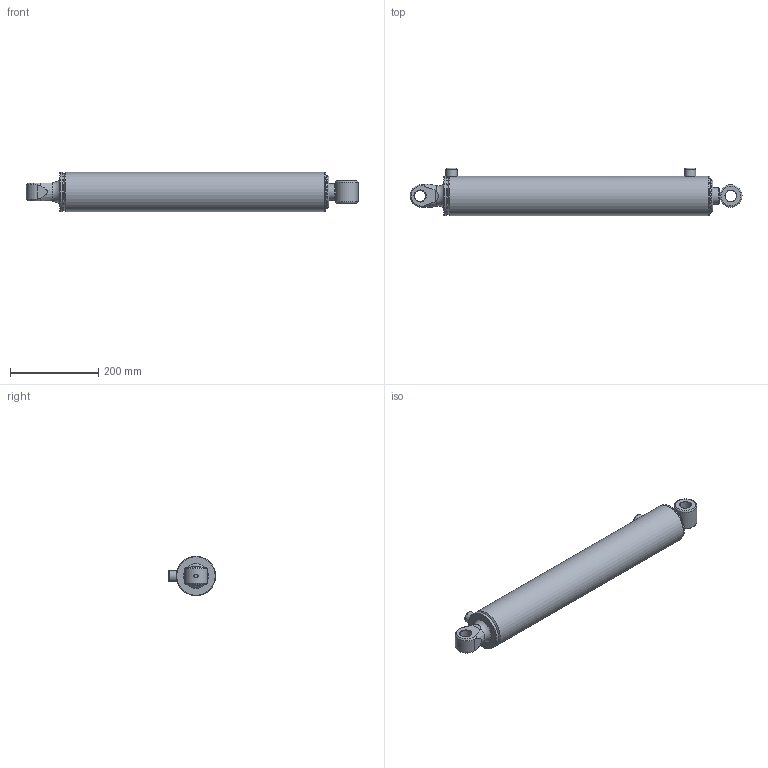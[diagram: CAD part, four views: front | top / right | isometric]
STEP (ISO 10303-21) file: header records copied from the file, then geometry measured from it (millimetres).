
FILE_DESCRIPTION(/* description */ ('Alibre Inc.'),/* implementation_level */ '2;1');
FILE_NAME(/* name */ 'export0',/* time_stamp */ '2016-08-16T10:01:54+12:00',/* author */ (''),/* organization */ (''),/* preprocessor_version */ 'ST-DEVELOPER v14',/* originating_system */ 'Alibre',/* authorisation */ '');
FILE_SCHEMA (('AUTOMOTIVE_DESIGN'));
Length unit declared in the file: centimetre
Bounding box: 751.13 x 106.9 x 88.9 mm (x, y, z)
Volume: 2176135.7 mm3; surface area: 497736.3 mm2
Topology: 12 solids, 12 shells, 157 faces, 332 edges, 209 vertices
Faces by surface type: cylinder 61, plane 57, cone 23, torus 13, sphere 2, bspline 1
Full cylindrical faces by diameter (mm): 7 x1, 8.3 x2, 8.8 x1, 9.525 x2, 15.25 x2, 23 x1, 23.622 x1, 25 x2, 25.4 x2, 25.451 x1, 38.1 x2, 38.18 x2, 44.45 x1, 46.9 x2, 47.62 x2, 50.8 x1, 60.33 x1, 69.2 x1, 70.36 x1, 71.6 x2, 72.57 x2, 72.87 x1, 74.83 x2, 76.09 x2, 76.1 x1, 76.2 x2, 79.4 x1, 88.9 x3
Entity records: 4365 total; most frequent: CARTESIAN_POINT 1210, DIRECTION 599, ORIENTED_EDGE 456, AXIS2_PLACEMENT_3D 310, FACE_BOUND 271, EDGE_LOOP 269, EDGE_CURVE 228, VERTEX_POINT 191
